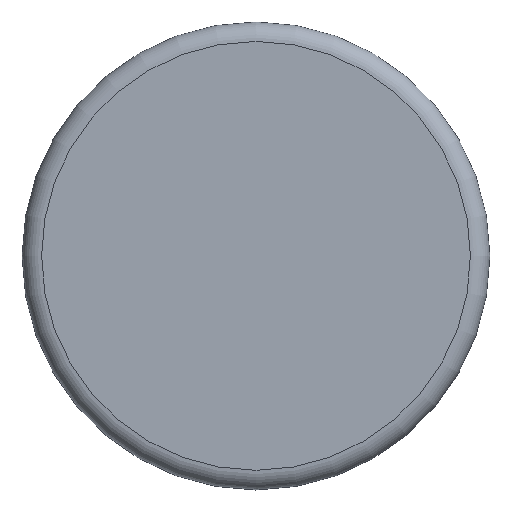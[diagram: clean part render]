
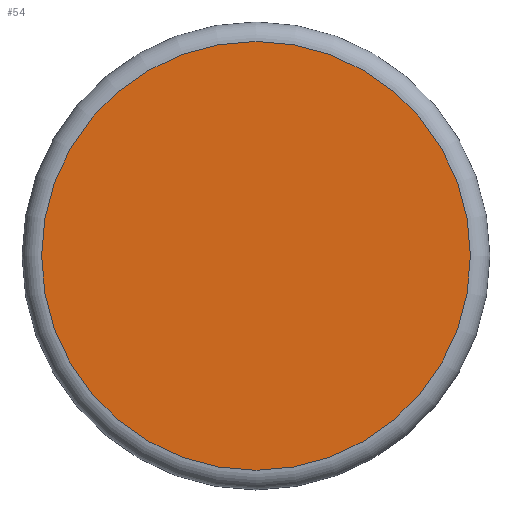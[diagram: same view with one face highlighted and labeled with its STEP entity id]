
A CAD part, top view. The second image highlights one B-rep face of the part: STEP entity #54.
In plain terms, the highlighted planar face has unit normal (0, 0, 1).
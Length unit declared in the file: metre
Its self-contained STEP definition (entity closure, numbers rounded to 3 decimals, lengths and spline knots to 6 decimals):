
#14=PLANE('',#74);
#18=ORIENTED_EDGE('',*,*,#26,.T.);
#26=EDGE_CURVE('',#30,#30,#34,.T.);
#30=VERTEX_POINT('',#108);
#34=CIRCLE('',#75,0.034925);
#38=EDGE_LOOP('',(#18));
#46=FACE_BOUND('',#38,.T.);
#54=ADVANCED_FACE('',(#46),#14,.T.);
#74=AXIS2_PLACEMENT_3D('',#106,#88,#89);
#75=AXIS2_PLACEMENT_3D('',#107,#90,#91);
#88=DIRECTION('',(0.,0.,1.));
#89=DIRECTION('',(1.,0.,0.));
#90=DIRECTION('',(0.,0.,1.));
#91=DIRECTION('',(1.,0.,0.));
#106=CARTESIAN_POINT('',(0.,0.,0.0254));
#107=CARTESIAN_POINT('',(0.,0.,0.0254));
#108=CARTESIAN_POINT('',(0.034925,0.,0.0254));
